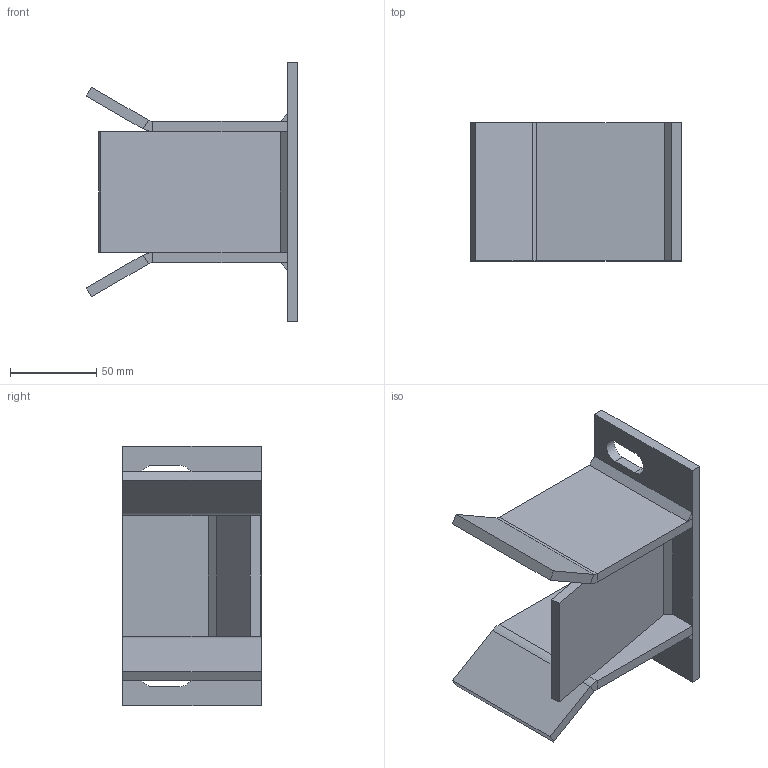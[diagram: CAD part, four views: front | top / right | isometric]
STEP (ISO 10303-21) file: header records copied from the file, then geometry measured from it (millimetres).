
FILE_DESCRIPTION(/* description */ ('Torfangstueck zu FRT Nr.3'),/* implementation_level */ '2;1');
FILE_NAME(/* name */ 'Q:\sge-ma\Produktmanagement-STB\STB\Workspace\stp\010337836.stp',/* time_stamp */ '2016-07-21T09:46:28+02:00',/* author */ ('avschreier'),/* organization */ (''),/* preprocessor_version */ 'ST-DEVELOPER v16.1',/* originating_system */ 'Autodesk Inventor 2016',/* authorisation */ '');
FILE_SCHEMA (('CONFIG_CONTROL_DESIGN'));
Length unit declared in the file: millimetre
Products named in the file (5): 010337836_Schweißnähte; 337000335; 337000334; 337000336; 010337836
Assembly tree (5 placements, depth 2):
  010337836
    010337836_Schweißnähte
    337000335  x2
    337000334
    337000336
Bounding box: 122.41 x 80 x 150 mm (x, y, z)
Volume: 231724.4 mm3; surface area: 91398.3 mm2
Topology: 8 solids, 8 shells, 68 faces, 140 edges, 88 vertices
Faces by surface type: plane 60, cylinder 8
Entity records: 1531 total; most frequent: DIRECTION 252, CARTESIAN_POINT 248, ORIENTED_EDGE 224, EDGE_CURVE 112, LINE 100, VECTOR 100, AXIS2_PLACEMENT_3D 76, VERTEX_POINT 72
